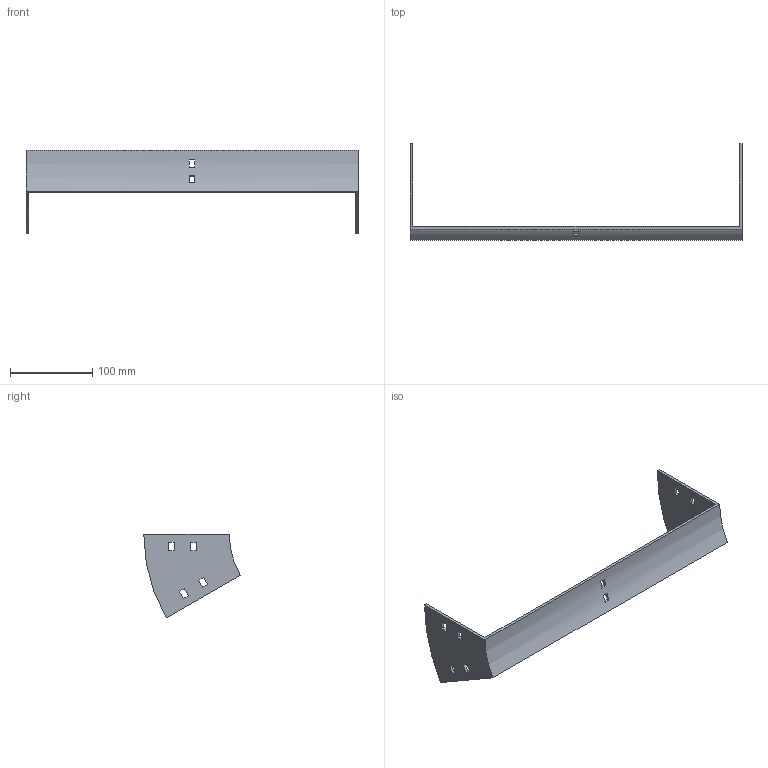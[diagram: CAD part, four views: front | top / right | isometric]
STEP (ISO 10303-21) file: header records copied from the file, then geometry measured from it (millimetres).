
FILE_DESCRIPTION (( 'STEP AP214' ), '1' );
FILE_NAME ('35B1D400.step', '2025-02-21T09:24:33', ( '' ), ( '' ), 'SwSTEP 2.0', 'SolidWorks 2023', '' );
FILE_SCHEMA (( 'AUTOMOTIVE_DESIGN' ));
Length unit declared in the file: millimetre
Products named in the file (1): 35B1D400
Bounding box: 404 x 117.4 x 102 mm (x, y, z)
Volume: 129591.4 mm3; surface area: 80200.6 mm2
Topology: 1 solids, 1 shells, 50 faces, 144 edges, 96 vertices
Faces by surface type: plane 46, cylinder 4
Entity records: 1687 total; most frequent: CARTESIAN_POINT 291, ORIENTED_EDGE 288, DIRECTION 262, EDGE_CURVE 144, VECTOR 128, LINE 128, VERTEX_POINT 96, EDGE_LOOP 70
